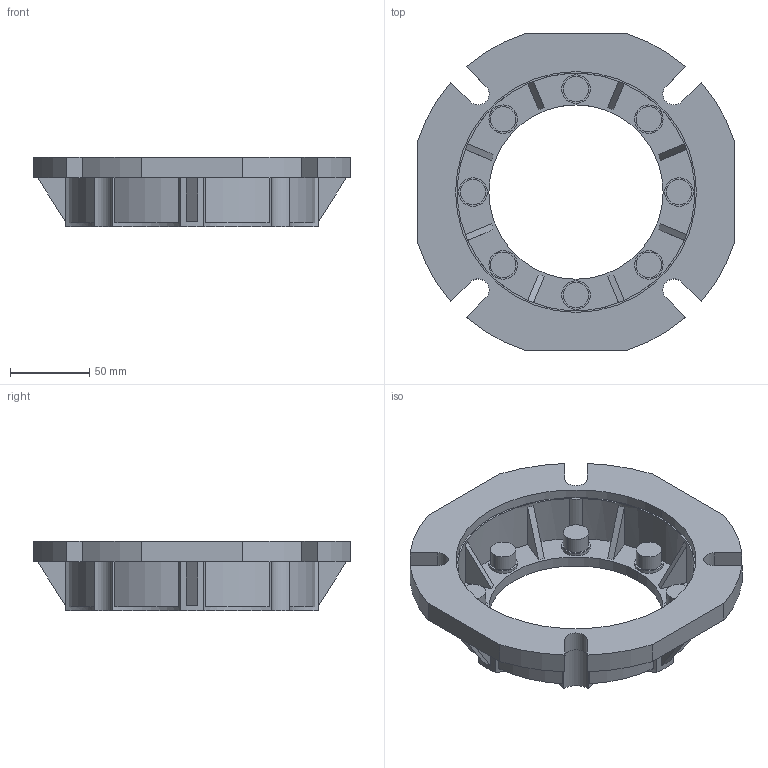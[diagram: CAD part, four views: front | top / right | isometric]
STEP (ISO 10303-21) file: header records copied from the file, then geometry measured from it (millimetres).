
FILE_DESCRIPTION(/* description */ (''),/* implementation_level */ '2;1');
FILE_NAME(/* name */ '1_FLANGIA (CAMPANA) LATERALE FA NMRV-P090',/* time_stamp */ '2025-10-09T15:23:15+02:00',/* author */ (''),/* organization */ (''),/* preprocessor_version */ 'ST-DEVELOPER v19.2',/* originating_system */ 'Rhino 8.23',/* authorisation */ '');
FILE_SCHEMA (('CONFIG_CONTROL_DESIGN'));
Length unit declared in the file: millimetre
Products named in the file (2): Document; FU 90FA-p
Bounding box: 200 x 200 x 44 mm (x, y, z)
Volume: 324076.9 mm3; surface area: 102838.3 mm2
Topology: 1 solids, 1 shells, 157 faces, 408 edges, 272 vertices
Faces by surface type: cylinder 80, plane 69, bspline 8
Entity records: 6750 total; most frequent: CARTESIAN_POINT 1633, ORIENTED_EDGE 816, DIRECTION 565, EDGE_CURVE 408, AXIS2_PLACEMENT_3D 357, VERTEX_POINT 272, TRIMMED_CURVE 204, CIRCLE 204
